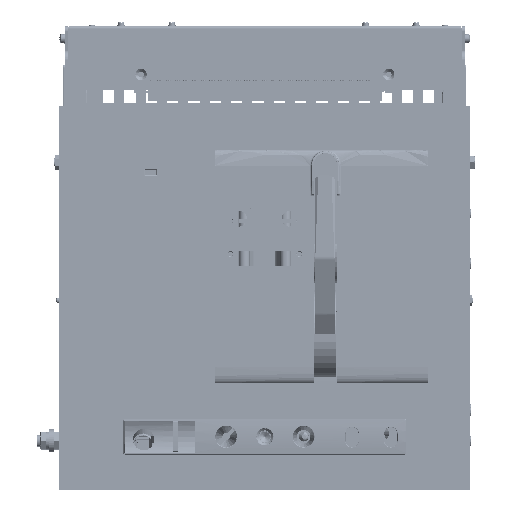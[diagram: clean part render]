
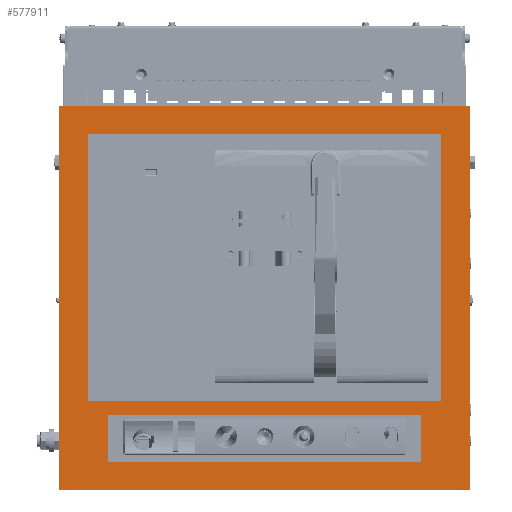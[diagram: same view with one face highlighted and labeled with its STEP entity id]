
A CAD part, top view. The second image highlights one B-rep face of the part: STEP entity #577911.
In plain terms, the highlighted planar face has unit normal (0, 0, 1) as drawn and (0, 1, 0) by its records, which use the part's own axes.
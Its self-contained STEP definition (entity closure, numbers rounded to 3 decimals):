
#5440 = VECTOR ( 'NONE', #144266, 1000. ) ;
#12561 = ORIENTED_EDGE ( 'NONE', *, *, #346335, .T. ) ;
#18028 = VERTEX_POINT ( 'NONE', #407643 ) ;
#21308 = EDGE_CURVE ( 'NONE', #595144, #544397, #253357, .T. ) ;
#23452 = CARTESIAN_POINT ( 'NONE',  ( 161.5, 11., 169. ) ) ;
#28190 = LINE ( 'NONE', #432122, #274099 ) ;
#29009 = CARTESIAN_POINT ( 'NONE',  ( 182., 11., -169. ) ) ;
#32018 = DIRECTION ( 'NONE',  ( -1., 0., 0. ) ) ;
#36242 = EDGE_CURVE ( 'NONE', #401390, #406095, #417577, .T. ) ;
#36515 = EDGE_CURVE ( 'NONE', #544397, #231280, #331833, .T. ) ;
#46071 = CARTESIAN_POINT ( 'NONE',  ( 182., 11., 106. ) ) ;
#52098 = VECTOR ( 'NONE', #32018, 1000. ) ;
#59230 = LINE ( 'NONE', #365237, #194488 ) ;
#70261 = CARTESIAN_POINT ( 'NONE',  ( 161.5, 11., 121. ) ) ;
#75597 = ORIENTED_EDGE ( 'NONE', *, *, #570949, .T. ) ;
#75624 = LINE ( 'NONE', #225289, #274507 ) ;
#81922 = ORIENTED_EDGE ( 'NONE', *, *, #94771, .T. ) ;
#94731 = VERTEX_POINT ( 'NONE', #282013 ) ;
#94771 = EDGE_CURVE ( 'NONE', #607653, #360169, #529801, .T. ) ;
#110357 = ORIENTED_EDGE ( 'NONE', *, *, #261114, .T. ) ;
#114348 = VERTEX_POINT ( 'NONE', #577528 ) ;
#130436 = VECTOR ( 'NONE', #452255, 1000. ) ;
#144266 = DIRECTION ( 'NONE',  ( 0., 0., -1. ) ) ;
#149288 = CARTESIAN_POINT ( 'NONE',  ( -182., 11., -169. ) ) ;
#170364 = VERTEX_POINT ( 'NONE', #356622 ) ;
#186064 = LINE ( 'NONE', #583614, #282226 ) ;
#187110 = ORIENTED_EDGE ( 'NONE', *, *, #469078, .T. ) ;
#188940 = ORIENTED_EDGE ( 'NONE', *, *, #36242, .T. ) ;
#191841 = PLANE ( 'NONE',  #401176 ) ;
#194488 = VECTOR ( 'NONE', #511972, 1000. ) ;
#198263 = DIRECTION ( 'NONE',  ( 1., 0., 0. ) ) ;
#216976 = CARTESIAN_POINT ( 'NONE',  ( -161.5, 11., 121. ) ) ;
#218166 = LINE ( 'NONE', #361662, #220918 ) ;
#220918 = VECTOR ( 'NONE', #462729, 1000. ) ;
#225289 = CARTESIAN_POINT ( 'NONE',  ( -212., 11., -198. ) ) ;
#228539 = CARTESIAN_POINT ( 'NONE',  ( 182., 11., -169. ) ) ;
#231280 = VERTEX_POINT ( 'NONE', #46071 ) ;
#233250 = DIRECTION ( 'NONE',  ( -1., 0., 0. ) ) ;
#249163 = CARTESIAN_POINT ( 'NONE',  ( -212., 11., 198. ) ) ;
#253357 = LINE ( 'NONE', #149288, #130436 ) ;
#253755 = EDGE_LOOP ( 'NONE', ( #632774, #12561, #188940, #187110 ) ) ;
#261114 = EDGE_CURVE ( 'NONE', #231280, #18028, #59230, .T. ) ;
#261200 = CARTESIAN_POINT ( 'NONE',  ( -161.5, 11., 121. ) ) ;
#274099 = VECTOR ( 'NONE', #233250, 1000. ) ;
#274507 = VECTOR ( 'NONE', #424189, 1000. ) ;
#282013 = CARTESIAN_POINT ( 'NONE',  ( 212., 11., -198. ) ) ;
#282226 = VECTOR ( 'NONE', #489065, 1000. ) ;
#317729 = LINE ( 'NONE', #70261, #569428 ) ;
#322909 = DIRECTION ( 'NONE',  ( 1., 0., 0. ) ) ;
#331833 = LINE ( 'NONE', #29009, #641942 ) ;
#336468 = CARTESIAN_POINT ( 'NONE',  ( -161.5, 11., 169. ) ) ;
#343853 = EDGE_CURVE ( 'NONE', #568657, #170364, #28190, .T. ) ;
#346335 = EDGE_CURVE ( 'NONE', #170364, #401390, #528930, .T. ) ;
#348127 = EDGE_LOOP ( 'NONE', ( #110357, #553475, #371659, #423480 ) ) ;
#354974 = CARTESIAN_POINT ( 'NONE',  ( 161.5, 11., 121. ) ) ;
#355312 = VECTOR ( 'NONE', #633962, 1000. ) ;
#356622 = CARTESIAN_POINT ( 'NONE',  ( -161.5, 11., 169. ) ) ;
#360169 = VERTEX_POINT ( 'NONE', #438402 ) ;
#361662 = CARTESIAN_POINT ( 'NONE',  ( 212., 11., 198. ) ) ;
#365237 = CARTESIAN_POINT ( 'NONE',  ( 182., 11., 106. ) ) ;
#371659 = ORIENTED_EDGE ( 'NONE', *, *, #21308, .T. ) ;
#380846 = EDGE_CURVE ( 'NONE', #94731, #114348, #478411, .T. ) ;
#387377 = CARTESIAN_POINT ( 'NONE',  ( 0., 11., 0. ) ) ;
#401176 = AXIS2_PLACEMENT_3D ( 'NONE', #387377, #491659, #198263 ) ;
#401390 = VERTEX_POINT ( 'NONE', #216976 ) ;
#406095 = VERTEX_POINT ( 'NONE', #354974 ) ;
#407643 = CARTESIAN_POINT ( 'NONE',  ( -182., 11., 106. ) ) ;
#417577 = LINE ( 'NONE', #261200, #589879 ) ;
#418370 = CARTESIAN_POINT ( 'NONE',  ( -182., 11., -169. ) ) ;
#423480 = ORIENTED_EDGE ( 'NONE', *, *, #36515, .T. ) ;
#424189 = DIRECTION ( 'NONE',  ( 0., 0., 1. ) ) ;
#432008 = CARTESIAN_POINT ( 'NONE',  ( -212., 11., 198. ) ) ;
#432122 = CARTESIAN_POINT ( 'NONE',  ( 161.5, 11., 169. ) ) ;
#438402 = CARTESIAN_POINT ( 'NONE',  ( 212., 11., 198. ) ) ;
#452255 = DIRECTION ( 'NONE',  ( 1., 0., 0. ) ) ;
#462729 = DIRECTION ( 'NONE',  ( 0., 0., -1. ) ) ;
#467761 = DIRECTION ( 'NONE',  ( 0., 0., 1. ) ) ;
#469078 = EDGE_CURVE ( 'NONE', #406095, #568657, #317729, .T. ) ;
#475687 = EDGE_CURVE ( 'NONE', #18028, #595144, #186064, .T. ) ;
#478411 = LINE ( 'NONE', #493640, #52098 ) ;
#488463 = FACE_BOUND ( 'NONE', #348127, .T. ) ;
#489065 = DIRECTION ( 'NONE',  ( 0., 0., -1. ) ) ;
#491659 = DIRECTION ( 'NONE',  ( 0., 1., 0. ) ) ;
#493640 = CARTESIAN_POINT ( 'NONE',  ( 212., 11., -198. ) ) ;
#497938 = ORIENTED_EDGE ( 'NONE', *, *, #527774, .T. ) ;
#511972 = DIRECTION ( 'NONE',  ( -1., 0., 0. ) ) ;
#527774 = EDGE_CURVE ( 'NONE', #114348, #607653, #75624, .T. ) ;
#528930 = LINE ( 'NONE', #336468, #5440 ) ;
#529801 = LINE ( 'NONE', #432008, #355312 ) ;
#544397 = VERTEX_POINT ( 'NONE', #228539 ) ;
#546977 = FACE_OUTER_BOUND ( 'NONE', #614967, .T. ) ;
#553475 = ORIENTED_EDGE ( 'NONE', *, *, #475687, .T. ) ;
#568657 = VERTEX_POINT ( 'NONE', #23452 ) ;
#569428 = VECTOR ( 'NONE', #467761, 1000. ) ;
#570949 = EDGE_CURVE ( 'NONE', #360169, #94731, #218166, .T. ) ;
#577528 = CARTESIAN_POINT ( 'NONE',  ( -212., 11., -198. ) ) ;
#577911 = ADVANCED_FACE ( 'NONE', ( #589399, #488463, #546977 ), #191841, .T. ) ;
#583614 = CARTESIAN_POINT ( 'NONE',  ( -182., 11., 106. ) ) ;
#589399 = FACE_BOUND ( 'NONE', #253755, .T. ) ;
#589879 = VECTOR ( 'NONE', #322909, 1000. ) ;
#595144 = VERTEX_POINT ( 'NONE', #418370 ) ;
#607653 = VERTEX_POINT ( 'NONE', #249163 ) ;
#614967 = EDGE_LOOP ( 'NONE', ( #81922, #75597, #632493, #497938 ) ) ;
#628394 = DIRECTION ( 'NONE',  ( 0., 0., 1. ) ) ;
#632493 = ORIENTED_EDGE ( 'NONE', *, *, #380846, .T. ) ;
#632774 = ORIENTED_EDGE ( 'NONE', *, *, #343853, .T. ) ;
#633962 = DIRECTION ( 'NONE',  ( 1., 0., 0. ) ) ;
#641942 = VECTOR ( 'NONE', #628394, 1000. ) ;
